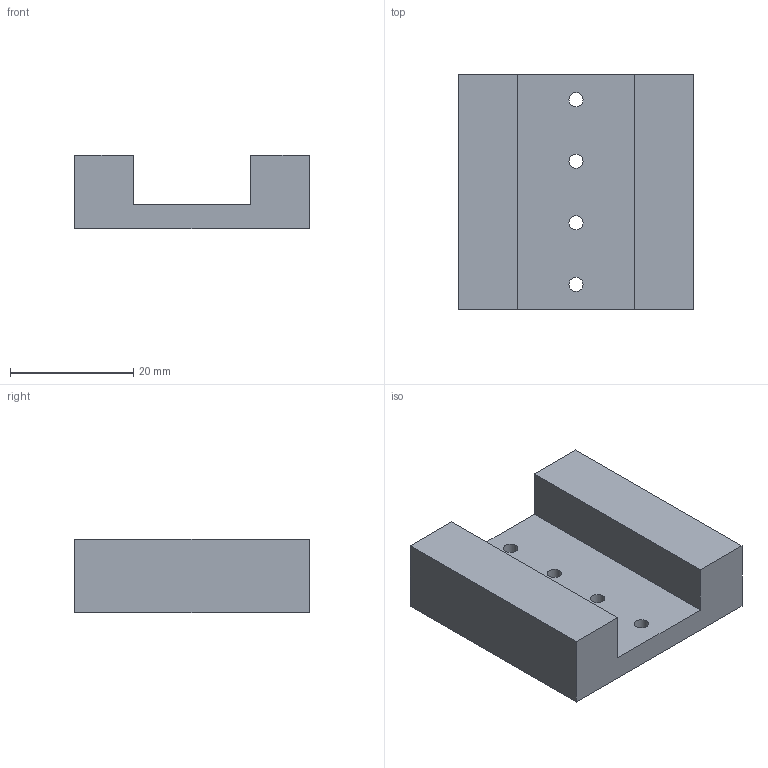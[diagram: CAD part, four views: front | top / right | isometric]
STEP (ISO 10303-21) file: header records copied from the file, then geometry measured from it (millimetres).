
FILE_DESCRIPTION(/* description */ ('','CAx-IF Rec.Pracs.---Representation and Presentation of Product Manufacturing Information (PMI)---3.8---2014-02-18'),/* implementation_level */ '2;1');
FILE_NAME(/* name */ 'D:\Inventor\1p2p\for vendors\DM mount\Optima order\goniometer2linearstage.stp',/* time_stamp */ '2018-05-07T13:11:12-07:00',/* author */ ('Radek'),/* organization */ (''),/* preprocessor_version */ 'ST-DEVELOPER v16.5',/* originating_system */ 'Autodesk Inventor 2017',/* authorisation */ '');
FILE_SCHEMA (('AP242_MANAGED_MODEL_BASED_3D_ENGINEERING_MIM_LF { 1 0 10303 442 1 1 4 }'));
Length unit declared in the file: millimetre
Products named in the file (1): goniometer2linearstage
Bounding box: 38.1 x 38.1 x 12 mm (x, y, z)
Volume: 11360.8 mm3; surface area: 5393.4 mm2
Topology: 1 solids, 1 shells, 26 faces, 68 edges, 44 vertices
Faces by surface type: plane 10, cone 8, cylinder 8
Full cylindrical faces by diameter (mm): 2.261 x4, 2.3 x4
Entity records: 694 total; most frequent: DIRECTION 118, CARTESIAN_POINT 107, ORIENTED_EDGE 88, EDGE_LOOP 50, AXIS2_PLACEMENT_3D 47, EDGE_CURVE 44, VERTEX_POINT 36, FACE_OUTER_BOUND 26
